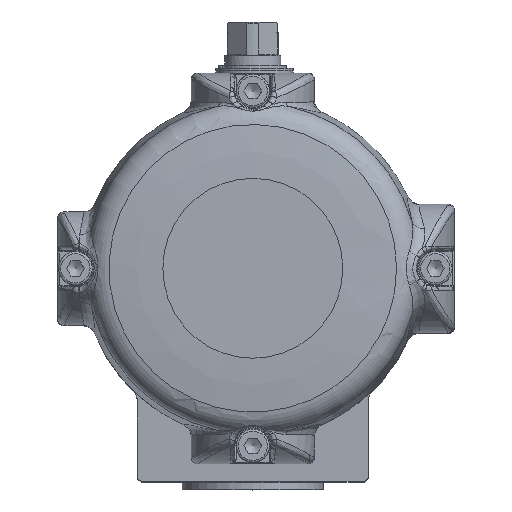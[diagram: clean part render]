
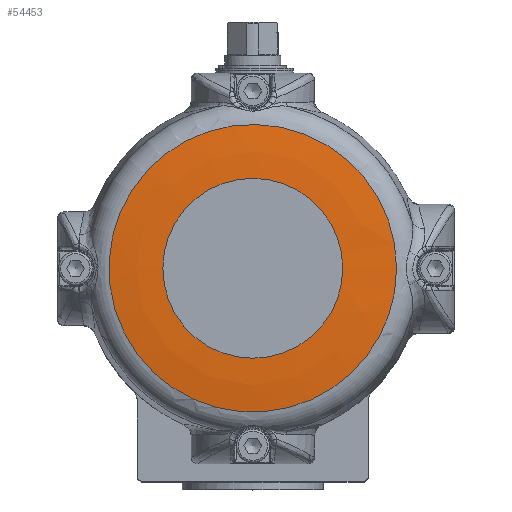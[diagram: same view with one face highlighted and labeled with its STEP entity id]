
A CAD part, top view. The second image highlights one B-rep face of the part: STEP entity #54453.
In plain terms, the highlighted free-form (B-spline) face has degree [2, 2] with [3, 9] control points.
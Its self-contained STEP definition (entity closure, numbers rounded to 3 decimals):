
#43319=CARTESIAN_POINT('',(55.94,0.,117.031));
#43320=VERTEX_POINT('',#43319);
#43321=CARTESIAN_POINT('',(0.,0.,117.031));
#43322=DIRECTION('',(0.0,0.0,-1.0));
#43323=DIRECTION('',(1.0,0.0,0.0));
#43324=AXIS2_PLACEMENT_3D('',#43321,#43322,#43323);
#43325=CIRCLE('',#43324,55.94);
#43326=EDGE_CURVE('',#43320,#43320,#43325,.T.);
#54400=CARTESIAN_POINT('',(35.,0.,118.5));
#54401=VERTEX_POINT('',#54400);
#54402=CARTESIAN_POINT('',(0.,0.,118.5));
#54403=DIRECTION('',(0.0,0.0,-1.0));
#54404=DIRECTION('',(1.0,0.0,0.0));
#54405=AXIS2_PLACEMENT_3D('',#54402,#54403,#54404);
#54406=CIRCLE('',#54405,35.0);
#54407=EDGE_CURVE('',#54401,#54401,#54406,.T.);
#54412=CARTESIAN_POINT('',(0.,14.06,117.031));
#54413=CARTESIAN_POINT('',(0.,35.,119.983));
#54414=CARTESIAN_POINT('',(0.,55.94,117.031));
#54415=CARTESIAN_POINT('',(-14.06,14.06,117.031));
#54416=CARTESIAN_POINT('',(-35.,35.,119.983));
#54417=CARTESIAN_POINT('',(-55.94,55.94,117.031));
#54418=CARTESIAN_POINT('',(-14.06,0.,117.031));
#54419=CARTESIAN_POINT('',(-35.,0.,119.983));
#54420=CARTESIAN_POINT('',(-55.94,0.,117.031));
#54421=CARTESIAN_POINT('',(-14.06,-14.06,117.031));
#54422=CARTESIAN_POINT('',(-35.,-35.,119.983));
#54423=CARTESIAN_POINT('',(-55.94,-55.94,117.031));
#54424=CARTESIAN_POINT('',(0.,-14.06,117.031));
#54425=CARTESIAN_POINT('',(0.,-35.,119.983));
#54426=CARTESIAN_POINT('',(0.,-55.94,117.031));
#54427=CARTESIAN_POINT('',(14.06,-14.06,117.031));
#54428=CARTESIAN_POINT('',(35.,-35.,119.983));
#54429=CARTESIAN_POINT('',(55.94,-55.94,117.031));
#54430=CARTESIAN_POINT('',(14.06,0.,117.031));
#54431=CARTESIAN_POINT('',(35.,0.,119.983));
#54432=CARTESIAN_POINT('',(55.94,0.,117.031));
#54433=CARTESIAN_POINT('',(14.06,14.06,117.031));
#54434=CARTESIAN_POINT('',(35.,35.,119.983));
#54435=CARTESIAN_POINT('',(55.94,55.94,117.031));
#54436=CARTESIAN_POINT('',(0.,14.06,117.031));
#54437=CARTESIAN_POINT('',(0.,35.,119.983));
#54438=CARTESIAN_POINT('',(0.,55.94,117.031));
#54446=(BOUNDED_SURFACE()B_SPLINE_SURFACE(2,2,((#54412,#54415,#54418,#54421,#54424,#54427,#54430,#54433,#54436),(#54413,#54416,#54419,#54422,#54425,#54428,#54431,#54434,#54437),(#54414,#54417,#54420,#54423,#54426,#54429,#54432,#54435,#54438)),.UNSPECIFIED.,.F.,.T.,.U.)B_SPLINE_SURFACE_WITH_KNOTS((3,3),(3,2,2,2,3),(-1.711,-1.431),(0.0,1.571,3.142,4.712,6.283),.UNSPECIFIED.)GEOMETRIC_REPRESENTATION_ITEM()RATIONAL_B_SPLINE_SURFACE(((1.0,0.707,1.0,0.707,1.0,0.707,1.0,0.707,1.0),(0.99,0.7,0.99,0.7,0.99,0.7,0.99,0.7,0.99),(1.0,0.707,1.0,0.707,1.0,0.707,1.0,0.707,1.0)))REPRESENTATION_ITEM('')SURFACE());
#54447=ORIENTED_EDGE('',*,*,#43326,.F.);
#54448=EDGE_LOOP('',(#54447));
#54449=FACE_OUTER_BOUND('',#54448,.T.);
#54450=ORIENTED_EDGE('',*,*,#54407,.T.);
#54451=EDGE_LOOP('',(#54450));
#54452=FACE_BOUND('',#54451,.T.);
#54453=ADVANCED_FACE('',(#54449,#54452),#54446,.T.);
